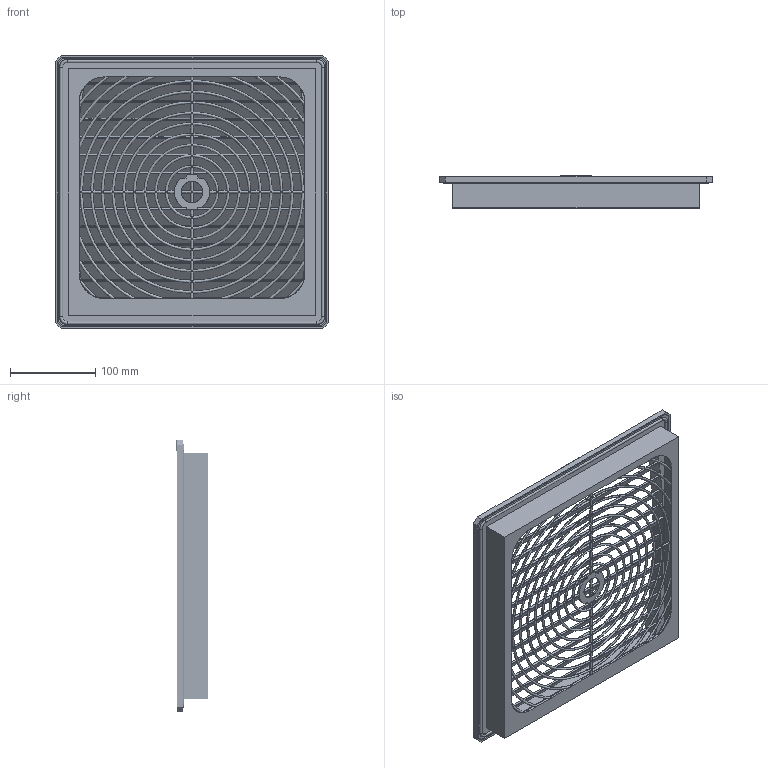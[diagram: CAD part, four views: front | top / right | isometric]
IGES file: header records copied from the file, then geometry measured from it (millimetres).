
Start section: SolidWorks IGES file using analytic representation for surfaces
Global section: file name: O:\Technik\Dokumentation\3D Volumenmodelle\PFA 60000\PFA 60000.IGS; native system: SolidWorks 2007; preprocessor: SolidWorks 2007; author: AHoltz; date: 070530.120355; units: millimetre
Bounding box: 320 x 37.94 x 320 mm (x, y, z)
Surface area: 486023.4 mm2 (no closed solid volume)
Topology: 0 solids, 0 shells, 1353 faces, 16930 edges, 16907 vertices
Faces by surface type: bspline 958, revolution 395
